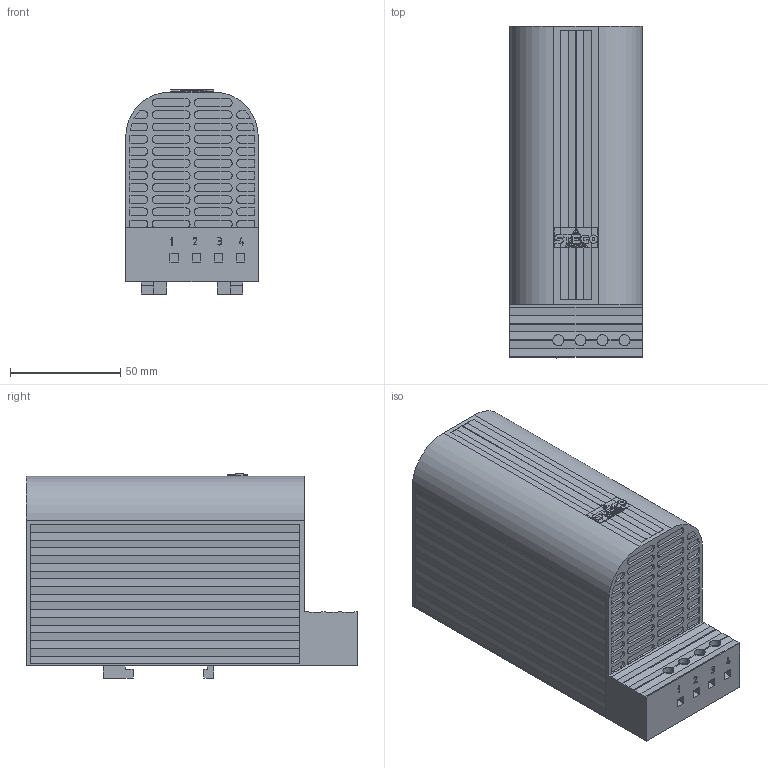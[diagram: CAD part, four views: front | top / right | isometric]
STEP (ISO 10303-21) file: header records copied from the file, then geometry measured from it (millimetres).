
FILE_DESCRIPTION (( 'STEP AP214' ), '1' );
FILE_NAME ('CS_060_150mm_EPLAN_07_2013.STEP', '2013-07-23T08:16:17', ( '' ), ( '' ), 'SwSTEP 2.0', 'SolidWorks 2013', '' );
FILE_SCHEMA (( 'AUTOMOTIVE_DESIGN' ));
Length unit declared in the file: millimetre
Products named in the file (1): CS_060_150mm_EPLAN_07_2013
Bounding box: 60 x 150.3 x 92.5 mm (x, y, z)
Volume: 657428.8 mm3; surface area: 53720.3 mm2
Topology: 2 solids, 2 shells, 975 faces, 2494 edges, 1636 vertices
Faces by surface type: plane 686, cylinder 184, bspline 105
Entity records: 30637 total; most frequent: CARTESIAN_POINT 7338, ORIENTED_EDGE 4988, DIRECTION 4388, EDGE_CURVE 2494, LINE 1888, VECTOR 1888, VERTEX_POINT 1636, AXIS2_PLACEMENT_3D 1250
